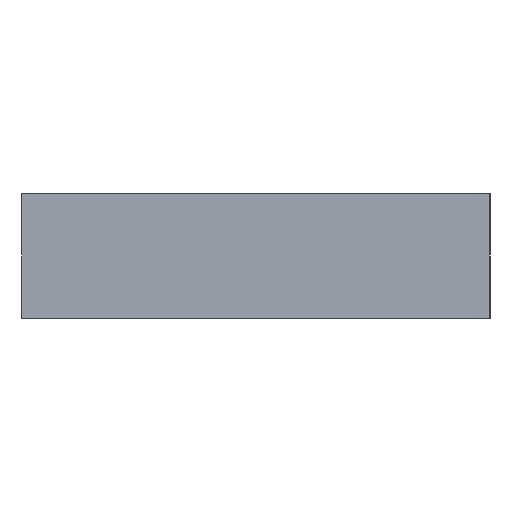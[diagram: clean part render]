
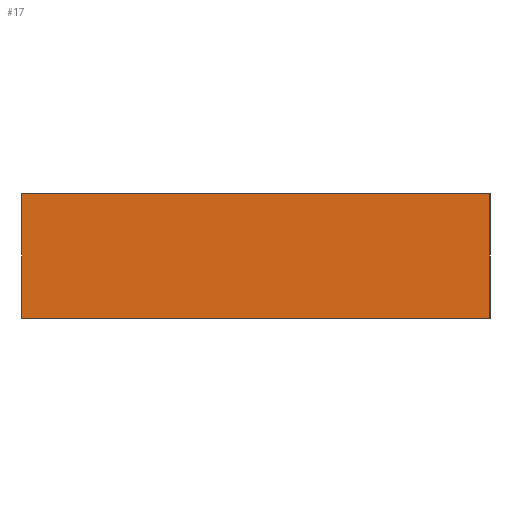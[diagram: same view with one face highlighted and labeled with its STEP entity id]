
A CAD part, left-side view. The second image highlights one B-rep face of the part: STEP entity #17.
In plain terms, the highlighted planar face has unit normal (-1, 0, 0).
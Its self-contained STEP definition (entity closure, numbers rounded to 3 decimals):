
#17 = ADVANCED_FACE('',(#18),#52,.F.);
#18 = FACE_BOUND('',#19,.F.);
#19 = EDGE_LOOP('',(#20,#30,#38,#46));
#20 = ORIENTED_EDGE('',*,*,#21,.F.);
#21 = EDGE_CURVE('',#22,#24,#26,.T.);
#22 = VERTEX_POINT('',#23);
#23 = CARTESIAN_POINT('',(-30.8,-15.063,189.388));
#24 = VERTEX_POINT('',#25);
#25 = CARTESIAN_POINT('',(-30.8,-15.063,190.988));
#26 = LINE('',#27,#28);
#27 = CARTESIAN_POINT('',(-30.8,-15.063,189.388));
#28 = VECTOR('',#29,1.);
#29 = DIRECTION('',(0.,0.,1.));
#30 = ORIENTED_EDGE('',*,*,#31,.T.);
#31 = EDGE_CURVE('',#22,#32,#34,.T.);
#32 = VERTEX_POINT('',#33);
#33 = CARTESIAN_POINT('',(-30.8,-9.063,189.388));
#34 = LINE('',#35,#36);
#35 = CARTESIAN_POINT('',(-30.8,-15.063,189.388));
#36 = VECTOR('',#37,1.);
#37 = DIRECTION('',(-0.,1.,0.));
#38 = ORIENTED_EDGE('',*,*,#39,.T.);
#39 = EDGE_CURVE('',#32,#40,#42,.T.);
#40 = VERTEX_POINT('',#41);
#41 = CARTESIAN_POINT('',(-30.8,-9.063,190.988));
#42 = LINE('',#43,#44);
#43 = CARTESIAN_POINT('',(-30.8,-9.063,189.388));
#44 = VECTOR('',#45,1.);
#45 = DIRECTION('',(0.,0.,1.));
#46 = ORIENTED_EDGE('',*,*,#47,.F.);
#47 = EDGE_CURVE('',#24,#40,#48,.T.);
#48 = LINE('',#49,#50);
#49 = CARTESIAN_POINT('',(-30.8,-15.063,190.988));
#50 = VECTOR('',#51,1.);
#51 = DIRECTION('',(-0.,1.,0.));
#52 = PLANE('',#53);
#53 = AXIS2_PLACEMENT_3D('',#54,#55,#56);
#54 = CARTESIAN_POINT('',(-30.8,-15.063,189.388));
#55 = DIRECTION('',(1.,0.,-0.));
#56 = DIRECTION('',(0.,0.,1.));
